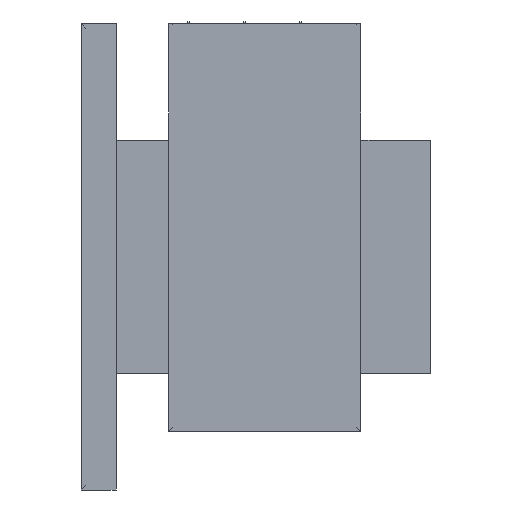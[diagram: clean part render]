
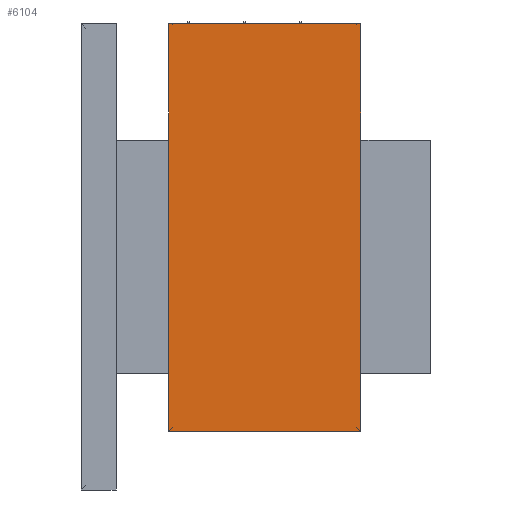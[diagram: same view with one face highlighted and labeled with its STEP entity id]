
A CAD part, left-side view. The second image highlights one B-rep face of the part: STEP entity #6104.
In plain terms, the highlighted planar face has unit normal (-1, 0, 0).
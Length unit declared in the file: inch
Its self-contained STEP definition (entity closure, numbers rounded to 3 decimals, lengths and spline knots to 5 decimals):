
#1115=FACE_OUTER_BOUND('',#1499,.T.);
#1499=EDGE_LOOP('',(#4612,#4613,#4614,#4615));
#1992=LINE('',#9892,#2569);
#1997=LINE('',#9901,#2574);
#1999=LINE('',#9905,#2576);
#2000=LINE('',#9907,#2577);
#2569=VECTOR('',#7744,0.3937);
#2574=VECTOR('',#7753,0.3937);
#2576=VECTOR('',#7757,0.3937);
#2577=VECTOR('',#7760,0.3937);
#3089=VERTEX_POINT('',#9889);
#3090=VERTEX_POINT('',#9891);
#3092=VERTEX_POINT('',#9899);
#3093=VERTEX_POINT('',#9903);
#3621=EDGE_CURVE('',#3089,#3090,#1992,.T.);
#3626=EDGE_CURVE('',#3089,#3092,#1997,.T.);
#3628=EDGE_CURVE('',#3092,#3093,#1999,.T.);
#3629=EDGE_CURVE('',#3090,#3093,#2000,.T.);
#4612=ORIENTED_EDGE('',*,*,#3626,.T.);
#4613=ORIENTED_EDGE('',*,*,#3628,.T.);
#4614=ORIENTED_EDGE('',*,*,#3629,.F.);
#4615=ORIENTED_EDGE('',*,*,#3621,.F.);
#5945=PLANE('',#6799);
#6104=ADVANCED_FACE('',(#1115),#5945,.T.);
#6799=AXIS2_PLACEMENT_3D('',#9906,#7758,#7759);
#7744=DIRECTION('',(0.,0.,1.));
#7753=DIRECTION('',(0.,-1.,0.));
#7757=DIRECTION('',(0.,0.,1.));
#7758=DIRECTION('center_axis',(-1.,0.,0.));
#7759=DIRECTION('ref_axis',(0.,-1.,0.));
#7760=DIRECTION('',(0.,-1.,0.));
#9889=CARTESIAN_POINT('',(0.,16.5,0.));
#9891=CARTESIAN_POINT('',(0.,16.5,35.));
#9892=CARTESIAN_POINT('',(0.,16.5,0.));
#9899=CARTESIAN_POINT('',(0.,0.,0.));
#9901=CARTESIAN_POINT('',(0.,16.5,0.));
#9903=CARTESIAN_POINT('',(0.,0.,35.));
#9905=CARTESIAN_POINT('',(0.,0.,0.));
#9906=CARTESIAN_POINT('Origin',(0.,16.5,0.));
#9907=CARTESIAN_POINT('',(0.,16.5,35.));
